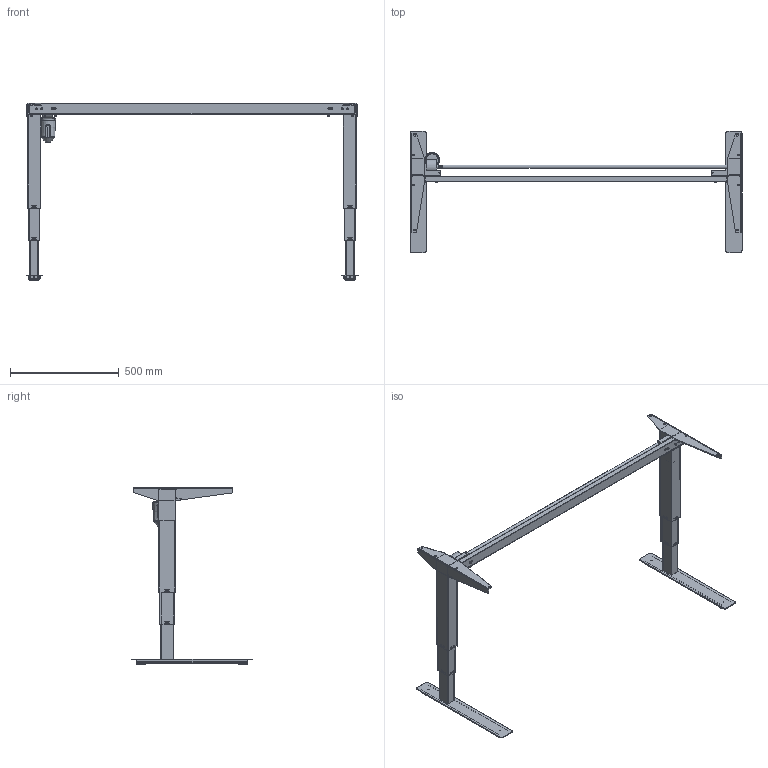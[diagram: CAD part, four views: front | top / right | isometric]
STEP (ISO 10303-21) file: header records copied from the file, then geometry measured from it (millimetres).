
FILE_DESCRIPTION (( 'STEP AP203' ), '1' );
FILE_NAME ('Tech-draw_501-37_XX152.STEP', '2019-09-25T11:34:44', ( '' ), ( '' ), 'SwSTEP 2.0', 'SolidWorks 2018', '' );
FILE_SCHEMA (( 'CONFIG_CONTROL_DESIGN' ));
Length unit declared in the file: millimetre
Products named in the file (32): 347920_152; 344070_shell view; 149010_501-37 XS152; 341220; 138780_silver; 148070_silver1; 341800_silver; 341180_shell view; 340540_shell view; 341140_shell view; 138800_silver1; 340760; 324520_silver; 347910_152; 332570; 138750_silver; 138770_silver; 341120; 134920_silver1; 340560; 344080; 138760_silver; 341130; 352610; 144260_152; 138790_silver1; 134950_silver1; 341150_shell view; 344430_silver; 348720_shell view; 341170_shell view; Tech-draw_501-37_XX152
Assembly tree (59 placements, depth 6):
  Tech-draw_501-37_XX152
    149010_501-37 XS152
      347910_152
      144260_152
        347920_152
        340560
        341220
      138760_silver
        148070_silver1
          341130
          341180_shell view
          348720_shell view
        138780_silver
          138800_silver1
            341150_shell view
            344070_shell view
            344080
          134950_silver1
            341140_shell view
          341800_silver  x4
        341800_silver  x4
        324520_silver  x2
        344430_silver
        352610
      138750_silver
        134920_silver1
          341120
          341170_shell view
          340540_shell view
        138770_silver
          138790_silver1
            341150_shell view
            344070_shell view
            344080
          134950_silver1
            341140_shell view
          341800_silver  x4
        341800_silver  x4
        324520_silver  x2
      340760  x4
      332570  x4
Bounding box: 1529 x 558.8 x 817 mm (x, y, z)
Volume: 2803123.7 mm3; surface area: 2540088.7 mm2
Topology: 48 solids, 48 shells, 2808 faces, 7150 edges, 4475 vertices
Faces by surface type: plane 1641, cylinder 823, bspline 224, cone 69, torus 51
Full cylindrical faces by diameter (mm): 2.8 x4, 3 x2, 4.6 x4, 5 x4, 6 x10, 7 x8, 7.6 x4, 8 x13, 10 x8, 11.9 x2, 12 x1, 13 x2, 15 x4, 16 x2, 18 x1, 20 x1, 37.6 x8, 60 x1
Entity records: 70590 total; most frequent: CARTESIAN_POINT 30171, ORIENTED_EDGE 7766, DIRECTION 7278, EDGE_CURVE 3883, AXIS2_PLACEMENT_3D 2658, VERTEX_POINT 2509, VECTOR 1962, LINE 1962
